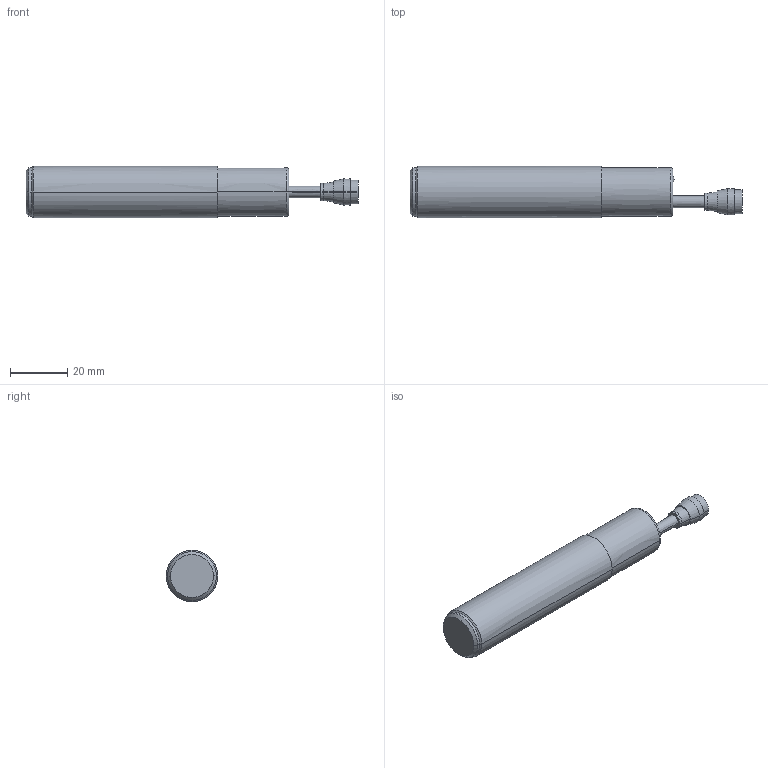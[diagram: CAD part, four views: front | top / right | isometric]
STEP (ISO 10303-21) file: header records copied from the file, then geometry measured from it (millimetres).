
FILE_DESCRIPTION((''),'2;1');
FILE_NAME('873P_DBNPX_F4','2012-07-25T',('Administrator'),(''),'PRO/ENGINEER BY PARAMETRIC TECHNOLOGY CORPORATION, 2006010','PRO/ENGINEER BY PARAMETRIC TECHNOLOGY CORPORATION, 2006010','');
FILE_SCHEMA(('CONFIG_CONTROL_DESIGN'));
Length unit declared in the file: millimetre
Products named in the file (1): 873P_DBNPX_F4
Bounding box: 116.15 x 18 x 18 mm (x, y, z)
Surface area: 6526.9 mm2 (no closed solid volume)
Topology: 0 solids, 0 shells, 33 faces, 179 edges, 201 vertices
Faces by surface type: bspline 31, torus 2
Entity records: 3853 total; most frequent: CARTESIAN_POINT 2404, DIRECTION 268, TRIMMED_CURVE 201, VECTOR 140, LINE 140, DEFINITIONAL_REPRESENTATION 128, PCURVE 128, COMPOSITE_CURVE_SEGMENT 128
